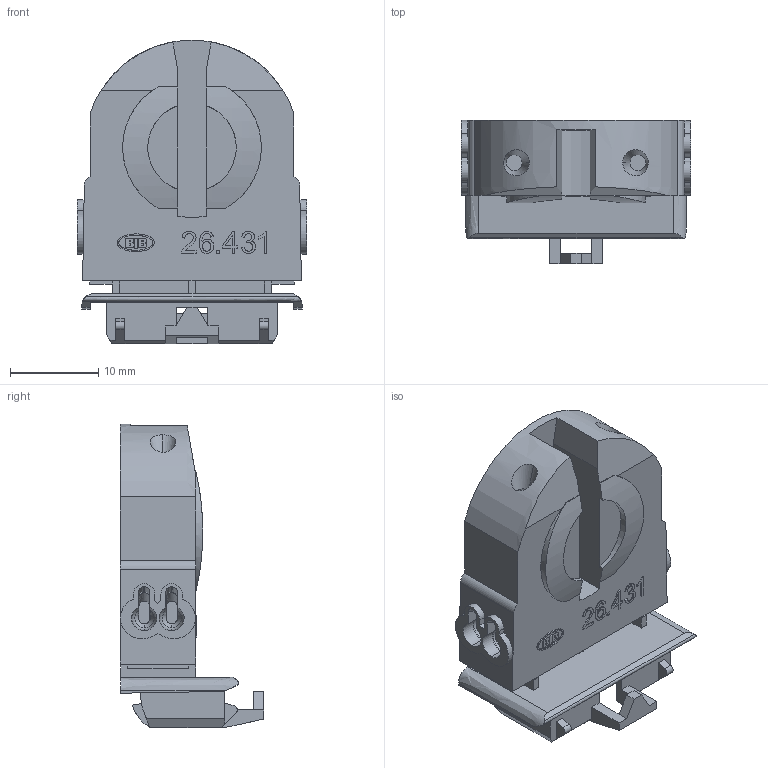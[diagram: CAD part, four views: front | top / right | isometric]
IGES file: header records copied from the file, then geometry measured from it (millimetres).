
Global section: file name: C:\CoreTechnologie\3D-in\00TYY08Y07.igs; native system: CT CoreTechnologie 3D Evolution; preprocessor: 2006; author: assmuth; date: 1170624.111314; units: metre
Bounding box: 26 x 16.23 x 34.33 mm (x, y, z)
Volume: 5534.1 mm3; surface area: 4900.8 mm2
Topology: 2 solids, 2 shells, 427 faces, 1172 edges, 772 vertices
Faces by surface type: plane 271, revolution 150, extrusion 6
